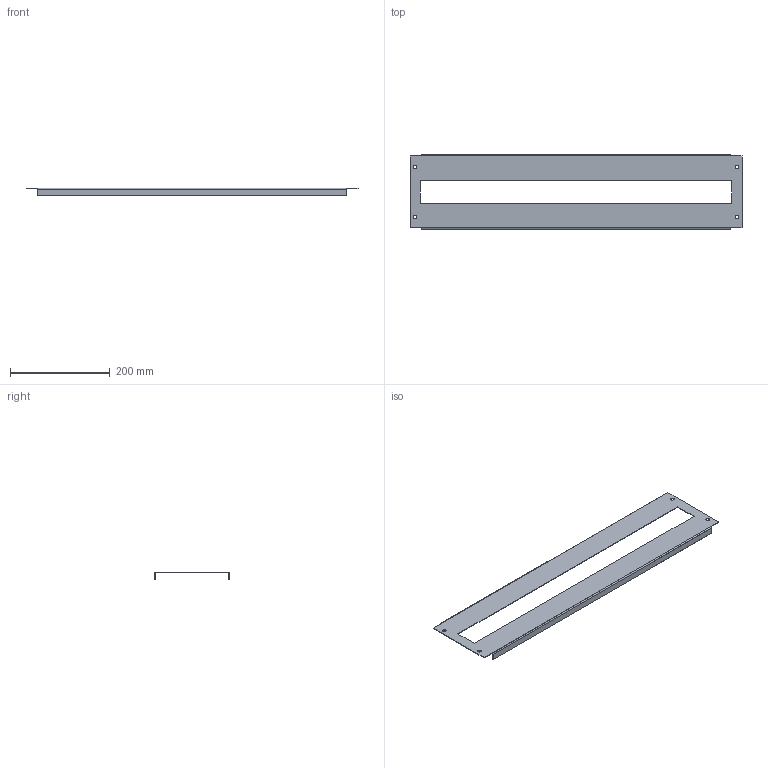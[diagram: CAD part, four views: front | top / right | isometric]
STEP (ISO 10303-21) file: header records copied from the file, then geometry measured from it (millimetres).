
FILE_DESCRIPTION (( 'STEP AP203' ), '1' );
FILE_NAME ('MB 15.70 P Ïàíåëü ìîäóëüíàÿ.STEP', '2012-11-21T07:09:52', ( 'system' ), ( '' ), 'SwSTEP 2.0', 'SolidWorks 2012', '' );
FILE_SCHEMA (( 'CONFIG_CONTROL_DESIGN' ));
Length unit declared in the file: millimetre
Products named in the file (1): MB 15.70 P Ïàíåëü ìîäóëüíàÿ
Bounding box: 665 x 149 x 15 mm (x, y, z)
Volume: 103416.3 mm3; surface area: 176087.7 mm2
Topology: 1 solids, 1 shells, 38 faces, 92 edges, 56 vertices
Faces by surface type: plane 26, cylinder 12
Entity records: 1189 total; most frequent: DIRECTION 194, CARTESIAN_POINT 187, ORIENTED_EDGE 184, EDGE_CURVE 92, VECTOR 68, LINE 68, AXIS2_PLACEMENT_3D 63, VERTEX_POINT 56
